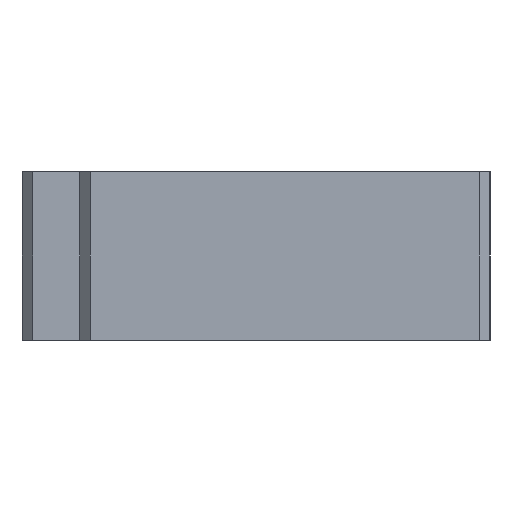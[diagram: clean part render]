
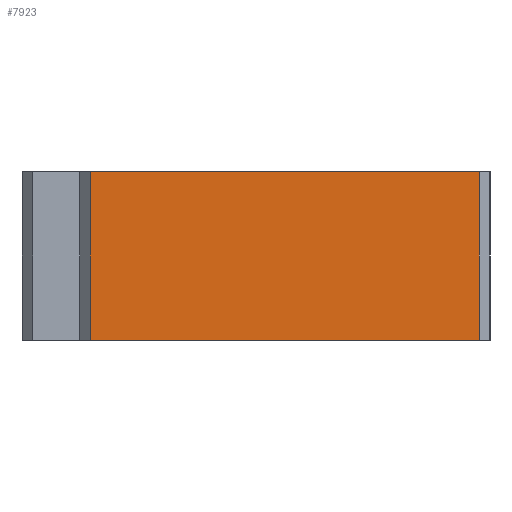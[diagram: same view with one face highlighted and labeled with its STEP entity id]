
A CAD part, left-side view. The second image highlights one B-rep face of the part: STEP entity #7923.
In plain terms, the highlighted planar face has unit normal (-1, 0, 0).
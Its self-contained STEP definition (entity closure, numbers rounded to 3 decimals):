
#313 = LINE ( 'NONE', #14698, #19915 ) ;
#1738 = VERTEX_POINT ( 'NONE', #4670 ) ;
#1996 = LINE ( 'NONE', #20165, #8934 ) ;
#2417 = DIRECTION ( 'NONE',  ( 1., 0., 0. ) ) ;
#2977 = LINE ( 'NONE', #10977, #22529 ) ;
#3485 = ORIENTED_EDGE ( 'NONE', *, *, #10216, .F. ) ;
#3616 = ORIENTED_EDGE ( 'NONE', *, *, #4512, .F. ) ;
#3785 = EDGE_CURVE ( 'NONE', #12418, #23047, #2977, .T. ) ;
#4345 = DIRECTION ( 'NONE',  ( 0., 1., 0. ) ) ;
#4512 = EDGE_CURVE ( 'NONE', #10730, #1738, #23113, .T. ) ;
#4670 = CARTESIAN_POINT ( 'NONE',  ( -98.298, 45.115, 16. ) ) ;
#5374 = ORIENTED_EDGE ( 'NONE', *, *, #6222, .F. ) ;
#6103 = DIRECTION ( 'NONE',  ( 0., 1., 0. ) ) ;
#6222 = EDGE_CURVE ( 'NONE', #23047, #10730, #1996, .T. ) ;
#7306 = CARTESIAN_POINT ( 'NONE',  ( -98.298, 45.115, 16. ) ) ;
#7923 = ADVANCED_FACE ( 'NONE', ( #9904 ), #20086, .F. ) ;
#7993 = CARTESIAN_POINT ( 'NONE',  ( -98.298, -28.885, 16. ) ) ;
#8934 = VECTOR ( 'NONE', #4345, 1000. ) ;
#9541 = CARTESIAN_POINT ( 'NONE',  ( -98.298, 45.115, -16. ) ) ;
#9904 = FACE_OUTER_BOUND ( 'NONE', #10081, .T. ) ;
#10081 = EDGE_LOOP ( 'NONE', ( #3485, #3616, #5374, #14896 ) ) ;
#10216 = EDGE_CURVE ( 'NONE', #1738, #12418, #313, .T. ) ;
#10684 = AXIS2_PLACEMENT_3D ( 'NONE', #12384, #2417, #6103 ) ;
#10730 = VERTEX_POINT ( 'NONE', #9541 ) ;
#10977 = CARTESIAN_POINT ( 'NONE',  ( -98.298, -28.885, 16. ) ) ;
#12384 = CARTESIAN_POINT ( 'NONE',  ( -98.298, -28.885, 16. ) ) ;
#12418 = VERTEX_POINT ( 'NONE', #7993 ) ;
#13801 = VECTOR ( 'NONE', #17474, 1000. ) ;
#14545 = CARTESIAN_POINT ( 'NONE',  ( -98.298, -28.885, -16. ) ) ;
#14698 = CARTESIAN_POINT ( 'NONE',  ( -98.298, -28.885, 16. ) ) ;
#14896 = ORIENTED_EDGE ( 'NONE', *, *, #3785, .F. ) ;
#17474 = DIRECTION ( 'NONE',  ( 0., 0., 1. ) ) ;
#19915 = VECTOR ( 'NONE', #20595, 1000. ) ;
#20086 = PLANE ( 'NONE',  #10684 ) ;
#20165 = CARTESIAN_POINT ( 'NONE',  ( -98.298, 58.115, -16. ) ) ;
#20508 = DIRECTION ( 'NONE',  ( 0., 0., -1. ) ) ;
#20595 = DIRECTION ( 'NONE',  ( 0., -1., 0. ) ) ;
#22529 = VECTOR ( 'NONE', #20508, 1000. ) ;
#23047 = VERTEX_POINT ( 'NONE', #14545 ) ;
#23113 = LINE ( 'NONE', #7306, #13801 ) ;
